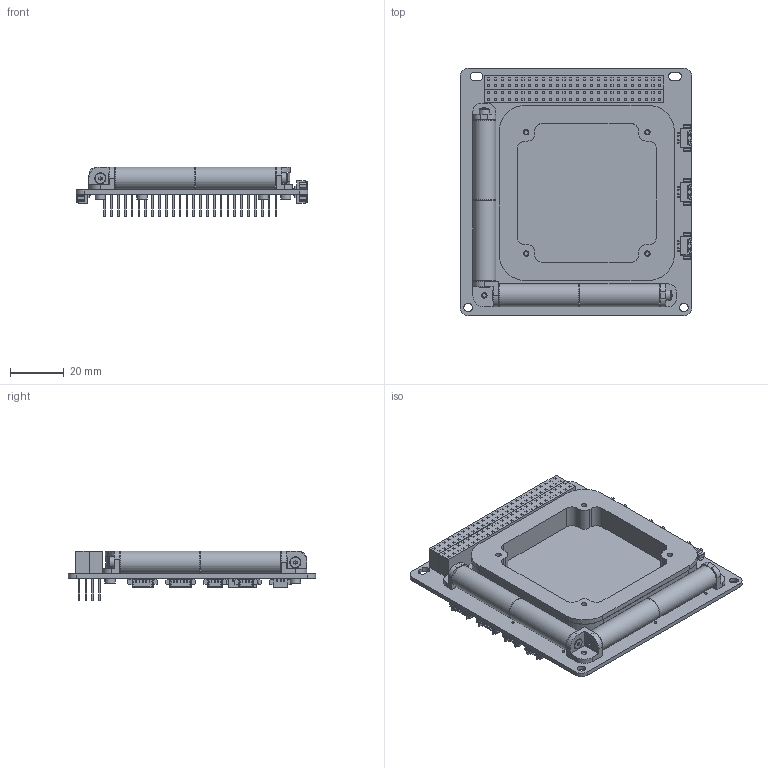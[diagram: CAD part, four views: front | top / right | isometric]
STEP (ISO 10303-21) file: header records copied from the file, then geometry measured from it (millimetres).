
FILE_DESCRIPTION(/* description */ (''),/* implementation_level */ '2;1');
FILE_NAME(/* name */ 'G:\共用雲端硬碟\研發部\RD Project\Inventor Mechanical Design Files\ADCS-MTQ Magnetorquer-based integrated ADCS for Nano-Satellite\V1.3\ADCS-MTQ V1.3 Assembly for Customers.stp',/* time_stamp */ '2022-11-30T19:16:13+08:00',/* author */ ('thoma'),/* organization */ (''),/* preprocessor_version */ 'ST-DEVELOPER v19',/* originating_system */ 'Autodesk Inventor 2023',/* authorisation */ '');
FILE_SCHEMA (('AUTOMOTIVE_DESIGN { 1 0 10303 214 3 1 1 }'));
Length unit declared in the file: millimetre
Products named in the file (19): Assembly C. Circuit Board; C-1. Main Driving Circuit Board - Standard PC104 (Modified); 26. Torquer Seat-2; Magnetorquer Rod; SNSS-M2-3; SNSS-M2-4; SNSS-M2-5; SFB2-4; 15. Corner Coil Seat; 12. Z axis Coil; Magnetorquer Coil; SSQ-126-23-G-D; _T1SSQ-126-23-G-D; _P2SSQ-126-23-G-D; 11. Z axis Coil Seat; C-6-4. Molex Pico Blade 4-pin connector 532614007; Part2; C-6-3. Molex Pico Blade 4-pin connector 532614004; C-6-6. Molex Pico Blade 5-pin connector 532614005
Assembly tree (37 placements, depth 3):
  Assembly C. Circuit Board
    C-1. Main Driving Circuit Board - Standard PC104 (Modified)
    26. Torquer Seat-2  x2
    Magnetorquer Rod  x2
    Magnetorquer Coil  x4
    SNSS-M2-4  x2
    SNSS-M2-3  x3
    SNSS-M2-5  x4
    SFB2-4  x2
    15. Corner Coil Seat
    12. Z axis Coil  x2
    SSQ-126-23-G-D  x2
      _T1SSQ-126-23-G-D
      _P2SSQ-126-23-G-D
    11. Z axis Coil Seat
    C-6-3. Molex Pico Blade 4-pin connector 532614004  x3
    C-6-6. Molex Pico Blade 5-pin connector 532614005  x2
    Part2  x3
    C-6-4. Molex Pico Blade 4-pin connector 532614007
Bounding box: 86.01 x 91.72 x 18.52 mm (x, y, z)
Volume: 39456.5 mm3; surface area: 52409.7 mm2
Topology: 37 solids, 37 shells, 3632 faces, 9782 edges, 6432 vertices
Faces by surface type: plane 3230, cylinder 301, cone 101
Full cylindrical faces by diameter (mm): 0.914 x116, 2 x26, 2.1 x9, 3.2 x2, 3.8 x9, 3.82 x2, 5 x2, 5.3 x4, 8.486 x4
Entity records: 58517 total; most frequent: CARTESIAN_POINT 10182, ORIENTED_EDGE 9948, DIRECTION 9234, EDGE_CURVE 4974, LINE 4450, VECTOR 4450, VERTEX_POINT 3286, AXIS2_PLACEMENT_3D 2392
